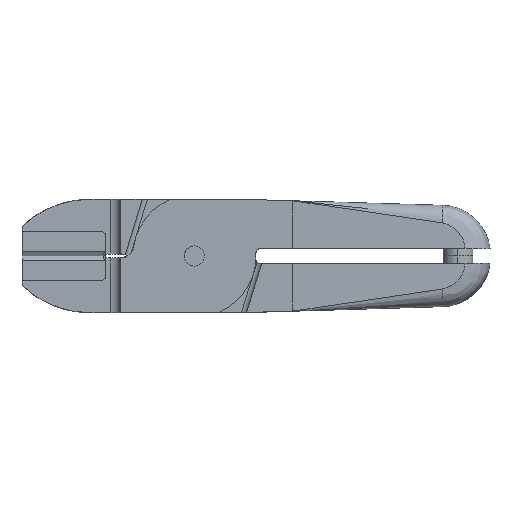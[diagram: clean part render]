
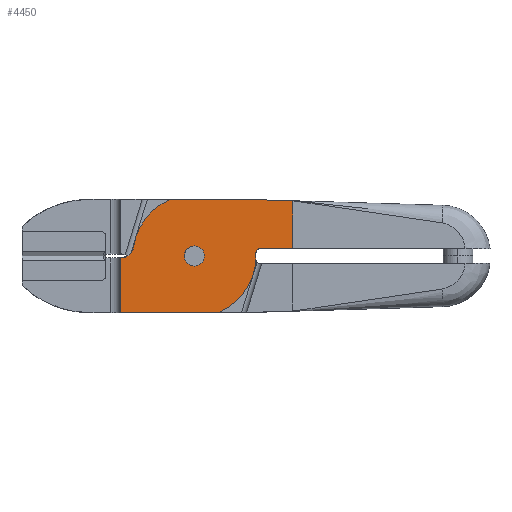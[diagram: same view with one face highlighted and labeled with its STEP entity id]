
A CAD part, top view. The second image highlights one B-rep face of the part: STEP entity #4450.
In plain terms, the highlighted planar face has unit normal (0, 0, 1).
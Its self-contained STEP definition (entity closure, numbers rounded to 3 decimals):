
#1 = CARTESIAN_POINT ( 'NONE',  ( -4.899, 11.5, 0. ) ) ;
#40 = VECTOR ( 'NONE', #1414, 1000. ) ;
#99 = DIRECTION ( 'NONE',  ( 0., 1., 0. ) ) ;
#110 = DIRECTION ( 'NONE',  ( 0., 0., 1. ) ) ;
#153 = CIRCLE ( 'NONE', #757, 2.05 ) ;
#159 = ORIENTED_EDGE ( 'NONE', *, *, #3642, .T. ) ;
#171 = EDGE_CURVE ( 'NONE', #1542, #1788, #153, .T. ) ;
#174 = ORIENTED_EDGE ( 'NONE', *, *, #4437, .T. ) ;
#180 = LINE ( 'NONE', #1545, #295 ) ;
#205 = CARTESIAN_POINT ( 'NONE',  ( 0., 0., 0. ) ) ;
#225 = VERTEX_POINT ( 'NONE', #1 ) ;
#226 = VERTEX_POINT ( 'NONE', #2774 ) ;
#252 = DIRECTION ( 'NONE',  ( 0., 0., 1. ) ) ;
#295 = VECTOR ( 'NONE', #2698, 1000. ) ;
#333 = EDGE_CURVE ( 'NONE', #664, #4764, #1999, .T. ) ;
#454 = DIRECTION ( 'NONE',  ( -1., 0., 0. ) ) ;
#477 = CARTESIAN_POINT ( 'NONE',  ( 2.05, 0., 0. ) ) ;
#542 = DIRECTION ( 'NONE',  ( 1., 0., 0. ) ) ;
#640 = VERTEX_POINT ( 'NONE', #1250 ) ;
#664 = VERTEX_POINT ( 'NONE', #2411 ) ;
#728 = DIRECTION ( 'NONE',  ( 0., 0., -1. ) ) ;
#729 = EDGE_CURVE ( 'NONE', #640, #225, #4183, .T. ) ;
#757 = AXIS2_PLACEMENT_3D ( 'NONE', #4264, #841, #3406 ) ;
#808 = CARTESIAN_POINT ( 'NONE',  ( -14.852, -0.4, 0. ) ) ;
#827 = LINE ( 'NONE', #1547, #2729 ) ;
#841 = DIRECTION ( 'NONE',  ( 0., 0., -1. ) ) ;
#872 = ORIENTED_EDGE ( 'NONE', *, *, #3525, .F. ) ;
#922 = VECTOR ( 'NONE', #454, 1000. ) ;
#944 = LINE ( 'NONE', #3674, #40 ) ;
#994 = VERTEX_POINT ( 'NONE', #808 ) ;
#1003 = FACE_BOUND ( 'NONE', #2803, .T. ) ;
#1033 = DIRECTION ( 'NONE',  ( -1., 0., 0. ) ) ;
#1035 = PLANE ( 'NONE',  #1856 ) ;
#1042 = ORIENTED_EDGE ( 'NONE', *, *, #4186, .F. ) ;
#1120 = CARTESIAN_POINT ( 'NONE',  ( 20., 11.2, 0. ) ) ;
#1213 = LINE ( 'NONE', #4532, #2106 ) ;
#1250 = CARTESIAN_POINT ( 'NONE',  ( 10., 11.5, 0. ) ) ;
#1354 = ORIENTED_EDGE ( 'NONE', *, *, #2558, .T. ) ;
#1414 = DIRECTION ( 'NONE',  ( 1., 0., 0. ) ) ;
#1425 = DIRECTION ( 'NONE',  ( 1., 0., 0. ) ) ;
#1451 = ORIENTED_EDGE ( 'NONE', *, *, #2213, .T. ) ;
#1500 = DIRECTION ( 'NONE',  ( -1., 0.03, 0. ) ) ;
#1542 = VERTEX_POINT ( 'NONE', #477 ) ;
#1545 = CARTESIAN_POINT ( 'NONE',  ( 2.5, -11.5, 0. ) ) ;
#1547 = CARTESIAN_POINT ( 'NONE',  ( 20., 6.35, 0. ) ) ;
#1566 = CARTESIAN_POINT ( 'NONE',  ( -14.852, -0.4, 0. ) ) ;
#1685 = CARTESIAN_POINT ( 'NONE',  ( 13.3, 1.5, 0. ) ) ;
#1733 = EDGE_CURVE ( 'NONE', #2341, #2108, #1213, .T. ) ;
#1780 = AXIS2_PLACEMENT_3D ( 'NONE', #205, #728, #542 ) ;
#1788 = VERTEX_POINT ( 'NONE', #3675 ) ;
#1856 = AXIS2_PLACEMENT_3D ( 'NONE', #4826, #3689, #1425 ) ;
#1920 = ORIENTED_EDGE ( 'NONE', *, *, #171, .T. ) ;
#1935 = EDGE_CURVE ( 'NONE', #1788, #1542, #4408, .T. ) ;
#1999 =( BOUNDED_CURVE ( )  B_SPLINE_CURVE ( 2, ( #2072, #2908, #2891 ),
 .UNSPECIFIED., .F., .T. ) 
 B_SPLINE_CURVE_WITH_KNOTS ( ( 3, 3 ),
 ( 0., 0.002 ),
 .UNSPECIFIED. ) 
 CURVE ( )  GEOMETRIC_REPRESENTATION_ITEM ( )  RATIONAL_B_SPLINE_CURVE ( ( 1., 0.91, 1. ) ) 
 REPRESENTATION_ITEM ( '' )  );
#2052 = LINE ( 'NONE', #3178, #4711 ) ;
#2054 = CARTESIAN_POINT ( 'NONE',  ( 12.5, 0., 0. ) ) ;
#2072 = CARTESIAN_POINT ( 'NONE',  ( -12.377, 1.75, 0. ) ) ;
#2106 = VECTOR ( 'NONE', #1033, 1000. ) ;
#2108 = VERTEX_POINT ( 'NONE', #4053 ) ;
#2134 = CIRCLE ( 'NONE', #4214, 12.5 ) ;
#2213 = EDGE_CURVE ( 'NONE', #2471, #2941, #2052, .T. ) ;
#2288 = VERTEX_POINT ( 'NONE', #4091 ) ;
#2291 = CARTESIAN_POINT ( 'NONE',  ( -15., -11.5, 0. ) ) ;
#2327 = VERTEX_POINT ( 'NONE', #3731 ) ;
#2341 = VERTEX_POINT ( 'NONE', #3369 ) ;
#2347 = CARTESIAN_POINT ( 'NONE',  ( -13.496, 0., 0. ) ) ;
#2394 = CARTESIAN_POINT ( 'NONE',  ( 0., 0., 0. ) ) ;
#2411 = CARTESIAN_POINT ( 'NONE',  ( -12.377, 1.75, 0. ) ) ;
#2413 =( BOUNDED_CURVE ( )  B_SPLINE_CURVE ( 2, ( #1685, #2788, #2423 ),
 .UNSPECIFIED., .F., .F. ) 
 B_SPLINE_CURVE_WITH_KNOTS ( ( 3, 3 ),
 ( 0., 0.001 ),
 .UNSPECIFIED. ) 
 CURVE ( )  GEOMETRIC_REPRESENTATION_ITEM ( )  RATIONAL_B_SPLINE_CURVE ( ( 1., 0.707, 1. ) ) 
 REPRESENTATION_ITEM ( '' )  );
#2423 = CARTESIAN_POINT ( 'NONE',  ( 12.5, 0.7, 0. ) ) ;
#2471 = VERTEX_POINT ( 'NONE', #4190 ) ;
#2498 = EDGE_CURVE ( 'NONE', #2941, #2288, #180, .T. ) ;
#2536 = CARTESIAN_POINT ( 'NONE',  ( 0., 0., 0. ) ) ;
#2554 = ORIENTED_EDGE ( 'NONE', *, *, #3248, .F. ) ;
#2558 = EDGE_CURVE ( 'NONE', #225, #664, #2999, .T. ) ;
#2683 = CARTESIAN_POINT ( 'NONE',  ( -14.115, -0.4, 0. ) ) ;
#2698 = DIRECTION ( 'NONE',  ( 1., 0., 0. ) ) ;
#2729 = VECTOR ( 'NONE', #4707, 1000. ) ;
#2732 = LINE ( 'NONE', #1120, #4633 ) ;
#2768 = ORIENTED_EDGE ( 'NONE', *, *, #2498, .T. ) ;
#2774 = CARTESIAN_POINT ( 'NONE',  ( 20., 11.2, 0. ) ) ;
#2784 = DIRECTION ( 'NONE',  ( -1., 0., 0. ) ) ;
#2788 = CARTESIAN_POINT ( 'NONE',  ( 12.5, 1.5, 0. ) ) ;
#2803 = EDGE_LOOP ( 'NONE', ( #1920, #3117 ) ) ;
#2889 = ORIENTED_EDGE ( 'NONE', *, *, #333, .T. ) ;
#2891 = CARTESIAN_POINT ( 'NONE',  ( -13.496, 0., 0. ) ) ;
#2908 = CARTESIAN_POINT ( 'NONE',  ( -12.537, 0.619, 0. ) ) ;
#2921 = LINE ( 'NONE', #4658, #4818 ) ;
#2937 = DIRECTION ( 'NONE',  ( -1., 0., 0. ) ) ;
#2941 = VERTEX_POINT ( 'NONE', #2291 ) ;
#2999 = CIRCLE ( 'NONE', #4724, 12.5 ) ;
#3059 = CARTESIAN_POINT ( 'NONE',  ( -13.496, 0., 0. ) ) ;
#3117 = ORIENTED_EDGE ( 'NONE', *, *, #1935, .T. ) ;
#3157 = EDGE_CURVE ( 'NONE', #3957, #2327, #2921, .T. ) ;
#3178 = CARTESIAN_POINT ( 'NONE',  ( -15., 0., 0. ) ) ;
#3248 = EDGE_CURVE ( 'NONE', #2108, #2327, #2413, .T. ) ;
#3369 = CARTESIAN_POINT ( 'NONE',  ( 20., 1.5, 0. ) ) ;
#3406 = DIRECTION ( 'NONE',  ( 1., 0., 0. ) ) ;
#3525 = EDGE_CURVE ( 'NONE', #994, #4764, #4690, .T. ) ;
#3642 = EDGE_CURVE ( 'NONE', #226, #640, #2732, .T. ) ;
#3674 = CARTESIAN_POINT ( 'NONE',  ( -16.426, -0.4, 0. ) ) ;
#3675 = CARTESIAN_POINT ( 'NONE',  ( -2.05, 0., 0. ) ) ;
#3689 = DIRECTION ( 'NONE',  ( 0., 0., 1. ) ) ;
#3731 = CARTESIAN_POINT ( 'NONE',  ( 12.5, 0.7, 0. ) ) ;
#3928 = EDGE_LOOP ( 'NONE', ( #4943, #1042, #159, #4923, #1354, #2889, #872, #4046, #1451, #2768, #174, #4026, #2554 ) ) ;
#3957 = VERTEX_POINT ( 'NONE', #2054 ) ;
#4026 = ORIENTED_EDGE ( 'NONE', *, *, #3157, .T. ) ;
#4046 = ORIENTED_EDGE ( 'NONE', *, *, #4868, .F. ) ;
#4053 = CARTESIAN_POINT ( 'NONE',  ( 13.3, 1.5, 0. ) ) ;
#4091 = CARTESIAN_POINT ( 'NONE',  ( 4.899, -11.5, 0. ) ) ;
#4145 = FACE_OUTER_BOUND ( 'NONE', #3928, .T. ) ;
#4183 = LINE ( 'NONE', #4588, #922 ) ;
#4186 = EDGE_CURVE ( 'NONE', #226, #2341, #827, .T. ) ;
#4190 = CARTESIAN_POINT ( 'NONE',  ( -15., -0.4, 0. ) ) ;
#4214 = AXIS2_PLACEMENT_3D ( 'NONE', #2536, #252, #2937 ) ;
#4264 = CARTESIAN_POINT ( 'NONE',  ( 0., 0., 0. ) ) ;
#4408 = CIRCLE ( 'NONE', #1780, 2.05 ) ;
#4437 = EDGE_CURVE ( 'NONE', #2288, #3957, #2134, .T. ) ;
#4450 = ADVANCED_FACE ( 'NONE', ( #1003, #4145 ), #1035, .T. ) ;
#4532 = CARTESIAN_POINT ( 'NONE',  ( 36.651, 1.5, 0. ) ) ;
#4588 = CARTESIAN_POINT ( 'NONE',  ( 2.5, 11.5, 0. ) ) ;
#4615 = DIRECTION ( 'NONE',  ( 0., -1., 0. ) ) ;
#4633 = VECTOR ( 'NONE', #1500, 1000. ) ;
#4658 = CARTESIAN_POINT ( 'NONE',  ( 12.5, 0., 0. ) ) ;
#4690 =( BOUNDED_CURVE ( )  B_SPLINE_CURVE ( 2, ( #1566, #2683, #2347 ),
 .UNSPECIFIED., .F., .F. ) 
 B_SPLINE_CURVE_WITH_KNOTS ( ( 3, 3 ),
 ( 0., 0.001 ),
 .UNSPECIFIED. ) 
 CURVE ( )  GEOMETRIC_REPRESENTATION_ITEM ( )  RATIONAL_B_SPLINE_CURVE ( ( 1., 0.959, 1. ) ) 
 REPRESENTATION_ITEM ( '' )  );
#4707 = DIRECTION ( 'NONE',  ( 0., -1., 0. ) ) ;
#4711 = VECTOR ( 'NONE', #4615, 1000. ) ;
#4724 = AXIS2_PLACEMENT_3D ( 'NONE', #2394, #110, #2784 ) ;
#4764 = VERTEX_POINT ( 'NONE', #3059 ) ;
#4818 = VECTOR ( 'NONE', #99, 1000. ) ;
#4826 = CARTESIAN_POINT ( 'NONE',  ( -15., -11.5, 0. ) ) ;
#4868 = EDGE_CURVE ( 'NONE', #2471, #994, #944, .T. ) ;
#4923 = ORIENTED_EDGE ( 'NONE', *, *, #729, .T. ) ;
#4943 = ORIENTED_EDGE ( 'NONE', *, *, #1733, .F. ) ;
